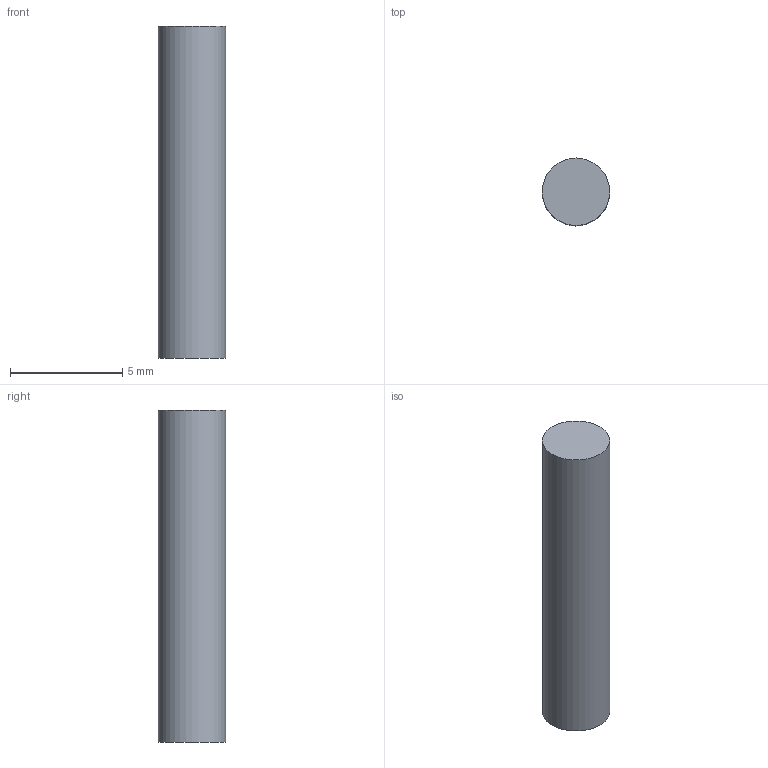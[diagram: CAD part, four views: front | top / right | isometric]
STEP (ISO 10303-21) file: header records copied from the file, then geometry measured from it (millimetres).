
FILE_DESCRIPTION(('Open CASCADE Model'),'2;1');
FILE_NAME('Open CASCADE Shape Model','2026-10-15T15:10:05',('Author'),( 'Open CASCADE'),'Open CASCADE STEP processor 8.0','Open CASCADE 8.0' ,'Unknown');
FILE_SCHEMA(('AUTOMOTIVE_DESIGN { 1 0 10303 214 1 1 1 1 }'));
Length unit declared in the file: millimetre
Products named in the file (1): TC18_CABLE_CAUTIVO_D3_SEG3_REF 151
Bounding box: 3 x 3 x 14.76 mm (x, y, z)
Volume: 104.4 mm3; surface area: 153.3 mm2
Topology: 1 solids, 1 shells, 3 faces, 3 edges, 2 vertices
Faces by surface type: plane 2, cylinder 1
Full cylindrical faces by diameter (mm): 3 x1
Entity records: 108 total; most frequent: DIRECTION 19, CARTESIAN_POINT 15, AXIS2_PLACEMENT_3D 6, ORIENTED_EDGE 6, PCURVE 6, DEFINITIONAL_REPRESENTATION 6, LINE 5, VECTOR 5
